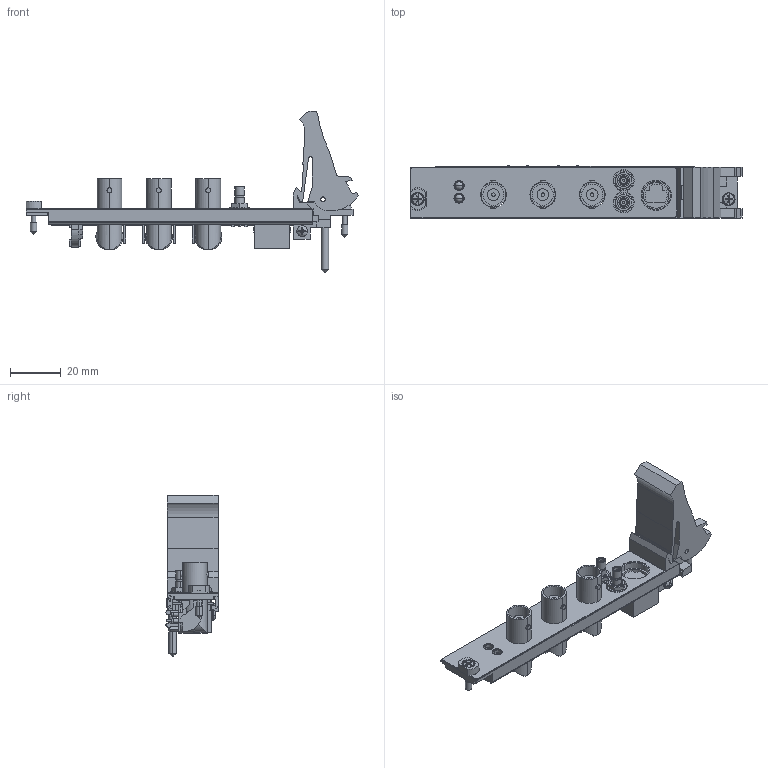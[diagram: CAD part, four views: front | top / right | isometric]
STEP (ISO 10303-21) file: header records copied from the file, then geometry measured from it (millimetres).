
FILE_DESCRIPTION((''),'2;1');
FILE_NAME('CU_PXI-5122','2009-11-13T',('jjorden'),(''),'PRO/ENGINEER BY PARAMETRIC TECHNOLOGY CORPORATION, 2006080','PRO/ENGINEER BY PARAMETRIC TECHNOLOGY CORPORATION, 2006080','');
FILE_SCHEMA(('CONFIG_CONTROL_DESIGN'));
Length unit declared in the file: inch
Products named in the file (1): CU_PXI-5122
Bounding box: 130.62 x 20.52 x 63.53 mm (x, y, z)
Volume: 23160.1 mm3; surface area: 23833 mm2
Topology: 9 solids, 9 shells, 957 faces, 2539 edges, 1619 vertices
Faces by surface type: plane 561, cylinder 324, cone 36, bspline 20, sphere 10, torus 6
Entity records: 31837 total; most frequent: CARTESIAN_POINT 7650, DIRECTION 5038, ORIENTED_EDGE 5022, EDGE_CURVE 2511, AXIS2_PLACEMENT_3D 1721, VERTEX_POINT 1638, VECTOR 1596, LINE 1596
